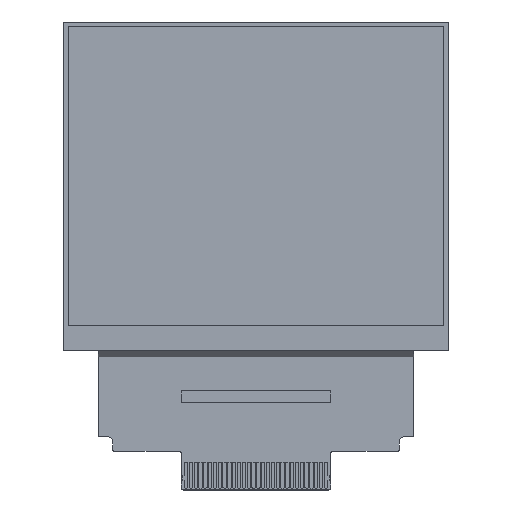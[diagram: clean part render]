
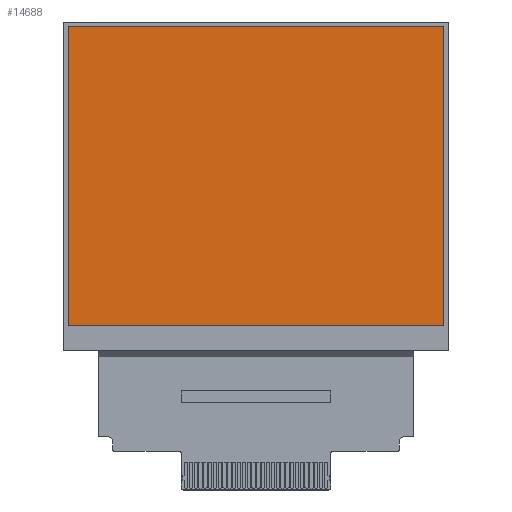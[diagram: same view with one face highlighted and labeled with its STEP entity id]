
A CAD part, top view. The second image highlights one B-rep face of the part: STEP entity #14688.
In plain terms, the highlighted planar face has unit normal (0, 0, 1).
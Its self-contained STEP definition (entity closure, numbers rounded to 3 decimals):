
#267 = CARTESIAN_POINT ( 'NONE',  ( 19.45, 0., 0.55 ) ) ;
#955 = EDGE_CURVE ( 'NONE', #8406, #10053, #14659, .T. ) ;
#1051 = ORIENTED_EDGE ( 'NONE', *, *, #955, .T. ) ;
#1888 = CARTESIAN_POINT ( 'NONE',  ( -19.45, 16.5, 0.55 ) ) ;
#1941 = ORIENTED_EDGE ( 'NONE', *, *, #4471, .T. ) ;
#2800 = CARTESIAN_POINT ( 'NONE',  ( -19.45, 0., 0.55 ) ) ;
#2888 = EDGE_CURVE ( 'NONE', #5118, #5622, #5515, .T. ) ;
#3225 = AXIS2_PLACEMENT_3D ( 'NONE', #4862, #6062, #5851 ) ;
#3849 = LINE ( 'NONE', #2800, #14177 ) ;
#3877 = PLANE ( 'NONE',  #3225 ) ;
#4471 = EDGE_CURVE ( 'NONE', #5622, #8406, #3849, .T. ) ;
#4862 = CARTESIAN_POINT ( 'NONE',  ( 0., 0., 0.55 ) ) ;
#5118 = VERTEX_POINT ( 'NONE', #14874 ) ;
#5271 = EDGE_CURVE ( 'NONE', #10053, #5118, #6293, .T. ) ;
#5515 = LINE ( 'NONE', #7765, #14486 ) ;
#5622 = VERTEX_POINT ( 'NONE', #1888 ) ;
#5851 = DIRECTION ( 'NONE',  ( 1., 0., 0. ) ) ;
#6062 = DIRECTION ( 'NONE',  ( 0., 0., 1. ) ) ;
#6293 = LINE ( 'NONE', #267, #13715 ) ;
#6892 = CARTESIAN_POINT ( 'NONE',  ( 19.45, -14.5, 0.55 ) ) ;
#7765 = CARTESIAN_POINT ( 'NONE',  ( 0., 16.5, 0.55 ) ) ;
#8183 = CARTESIAN_POINT ( 'NONE',  ( -19.45, -14.5, 0.55 ) ) ;
#8406 = VERTEX_POINT ( 'NONE', #8183 ) ;
#9989 = ORIENTED_EDGE ( 'NONE', *, *, #5271, .T. ) ;
#10053 = VERTEX_POINT ( 'NONE', #6892 ) ;
#10062 = CARTESIAN_POINT ( 'NONE',  ( 0., -14.5, 0.55 ) ) ;
#11779 = FACE_OUTER_BOUND ( 'NONE', #12390, .T. ) ;
#11786 = DIRECTION ( 'NONE',  ( 0., 1., 0. ) ) ;
#12390 = EDGE_LOOP ( 'NONE', ( #9989, #13785, #1941, #1051 ) ) ;
#12537 = DIRECTION ( 'NONE',  ( 1., 0., 0. ) ) ;
#13256 = DIRECTION ( 'NONE',  ( 0., -1., 0. ) ) ;
#13355 = DIRECTION ( 'NONE',  ( -1., 0., 0. ) ) ;
#13715 = VECTOR ( 'NONE', #11786, 1000. ) ;
#13785 = ORIENTED_EDGE ( 'NONE', *, *, #2888, .T. ) ;
#14177 = VECTOR ( 'NONE', #13256, 1000. ) ;
#14486 = VECTOR ( 'NONE', #13355, 1000. ) ;
#14579 = VECTOR ( 'NONE', #12537, 1000. ) ;
#14659 = LINE ( 'NONE', #10062, #14579 ) ;
#14688 = ADVANCED_FACE ( 'NONE', ( #11779 ), #3877, .T. ) ;
#14874 = CARTESIAN_POINT ( 'NONE',  ( 19.45, 16.5, 0.55 ) ) ;
